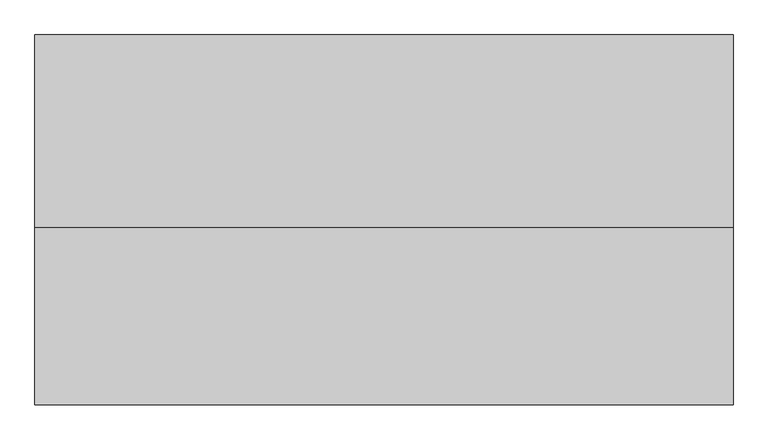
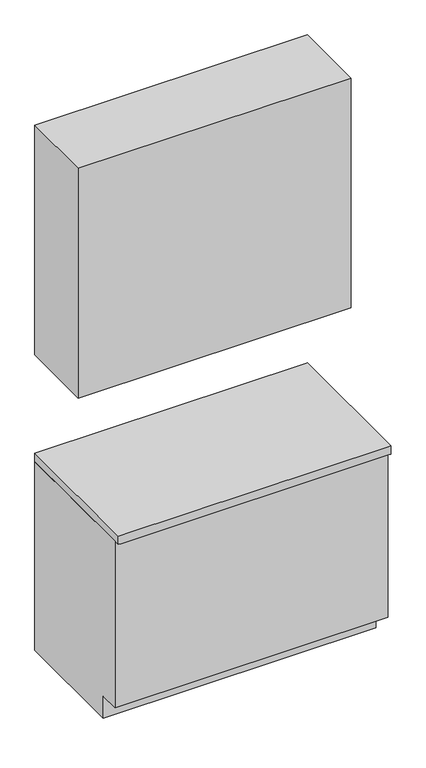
"""IFC4 building model written with IfcOpenShell, lengths in millimetres: furniture geometry, Casework Schematic - Base and Upper : Casework Schematic."""

import ifcopenshell
import ifcopenshell.guid

model = None  # the IFC model being written
_history = None  # IfcOwnerHistory: only IFC2X3 demands one
_inside = {}  # id of a spatial element -> (the spatial element, [elements in it])
_under = {}  # id of a project, library or spatial element -> (it, [spatial elements below it])
_declared = {}  # id of a project -> (the project, [libraries it declares])
_typed = {}  # id of a type object -> (the type object, [elements of that type])
_made_of = {}  # id of a material, layer set ... -> (it, [elements and type objects made of it])


def new_model(schema):
    """Start an empty IFC model of exactly this schema.

    Asked for "IFC4X3", IfcOpenShell would pick the latest addendum, in which some entities
    have other attributes; the version numbers below select the first issue.
    IFC2X3 requires an IfcOwnerHistory on every rooted entity: one is made here for all.
    """
    global model, _history
    if schema == "IFC4X3":
        model = ifcopenshell.file(schema_version=(4, 3, 0, 0))
    else:
        model = ifcopenshell.file(schema=schema)
    _inside.clear()
    _under.clear()
    _declared.clear()
    _typed.clear()
    _made_of.clear()
    _history = None
    if model.schema == "IFC2X3":
        org = make("IfcOrganization", Name="unknown")
        user = make(
            "IfcPersonAndOrganization",
            ThePerson=make("IfcPerson", FamilyName="unknown"),
            TheOrganization=org,
        )
        app = make(
            "IfcApplication",
            ApplicationDeveloper=org,
            Version="unknown",
            ApplicationFullName="unknown",
            ApplicationIdentifier="unknown",
        )
        _history = make(
            "IfcOwnerHistory",
            OwningUser=user,
            OwningApplication=app,
            ChangeAction="ADDED",
            CreationDate=0,
        )
    return model


def make(cls, **values):
    """One entity of the class cls with the attributes given. An attribute that is None is left unset."""
    return model.create_entity(
        cls, **{name: value for name, value in values.items() if value is not None}
    )


def rooted(cls, **values):
    """An entity with a GlobalId (a new one), such as an element, a storey or a relation."""
    return make(cls, GlobalId=ifcopenshell.guid.new(), OwnerHistory=_history, **values)


def si_unit(unit_type, name, prefix=None):
    """IfcSIUnit, for example si_unit("LENGTHUNIT", "METRE", prefix="MILLI")."""
    return make("IfcSIUnit", UnitType=unit_type, Prefix=prefix, Name=name)


def assignment(units):
    """IfcUnitAssignment: the units of a project."""
    return None if units is None else make("IfcUnitAssignment", Units=units)


def point(xyz):
    """IfcCartesianPoint."""
    return None if xyz is None else make("IfcCartesianPoint", Coordinates=xyz)


def direction(xyz):
    """IfcDirection."""
    return None if xyz is None else make("IfcDirection", DirectionRatios=xyz)


def frame(location, z_axis=None, x_axis=None):
    """IfcAxis2Placement3D, a coordinate frame: its origin and axes. An axis left out is left unset."""
    return make(
        "IfcAxis2Placement3D",
        Location=point(location),
        Axis=direction(z_axis),
        RefDirection=direction(x_axis),
    )


def origin():
    """The frame at (0, 0, 0) with its axes left unset."""
    return frame((0.0, 0.0, 0.0))


def place(relative_to, where):
    """IfcLocalPlacement: puts the frame where relative to a parent placement (None: the world)."""
    return make(
        "IfcLocalPlacement", PlacementRelTo=relative_to, RelativePlacement=where
    )


def context(
    kind, dimensions, precision=None, world=None, true_north=None, identifier=None
):
    """IfcGeometricRepresentationContext, for example the 3D "Model" context."""
    return make(
        "IfcGeometricRepresentationContext",
        ContextIdentifier=identifier,
        ContextType=kind,
        CoordinateSpaceDimension=dimensions,
        Precision=precision,
        WorldCoordinateSystem=world,
        TrueNorth=true_north,
    )


def project(units=None, contexts=None):
    """IfcProject with its units and contexts."""
    return rooted(
        "IfcProject",
        Name="project",
        RepresentationContexts=contexts,
        UnitsInContext=assignment(units),
    )


def spatial(cls, under=None, at=None, **own):
    """A site, building, storey or space (cls), placed at a placement, below another one or the project."""
    s = rooted(cls, ObjectPlacement=at, **own)
    if under is not None:
        _under.setdefault(under.id(), (under, []))[1].append(s)
    return s


def polyline(points):
    """IfcPolyline through the points."""
    return make("IfcPolyline", Points=[point(p) for p in points])


def outline(outer, holes=None, kind="AREA"):
    """IfcArbitraryClosedProfileDef: a profile drawn as a closed curve; with holes, ...WithVoids."""
    if holes is None:
        return make("IfcArbitraryClosedProfileDef", ProfileType=kind, OuterCurve=outer)
    return make(
        "IfcArbitraryProfileDefWithVoids",
        ProfileType=kind,
        OuterCurve=outer,
        InnerCurves=holes,
    )


def extrude(swept, where, along, depth):
    """IfcExtrudedAreaSolid: the profile swept, set in the frame where, extruded along a direction by depth."""
    return make(
        "IfcExtrudedAreaSolid",
        SweptArea=swept,
        Position=where,
        ExtrudedDirection=direction(along),
        Depth=depth,
    )


def faces_of(points, faces, orient=None, outer=None):
    """IfcFace entities. A face is a list of loops; a loop is a list of indices into points, from 0.

    orient and outer hold one flag for each loop. By default every Orientation is true, the
    first loop of a face is its IfcFaceOuterBound and the others are IfcFaceBound.
    """
    made = []
    for i, loops in enumerate(faces):
        bounds = []
        for j, loop in enumerate(loops):
            is_outer = j == 0 if outer is None else outer[i][j]
            bounds.append(
                make(
                    "IfcFaceOuterBound" if is_outer else "IfcFaceBound",
                    Bound=make("IfcPolyLoop", Polygon=[points[k] for k in loop]),
                    Orientation=True if orient is None else orient[i][j],
                )
            )
        made.append(make("IfcFace", Bounds=bounds))
    return made


def faceted_brep(points, faces, orient=None, outer=None, voids=None):
    """IfcFacetedBrep: a solid bounded by flat faces; with voids (closed shells), ...WithVoids."""
    shared = [point(p) for p in points]
    hull = make("IfcClosedShell", CfsFaces=faces_of(shared, faces, orient, outer))
    if voids is None:
        return make("IfcFacetedBrep", Outer=hull)
    return make(
        "IfcFacetedBrepWithVoids",
        Outer=hull,
        Voids=[
            make(cls, CfsFaces=faces_of(shared, fs, o, b)) for cls, fs, o, b in voids
        ],
    )


def shape(context_of_items, identifier, shape_type, items):
    """IfcShapeRepresentation: the items that make up one representation, for example the "Body"."""
    return make(
        "IfcShapeRepresentation",
        ContextOfItems=context_of_items,
        RepresentationIdentifier=identifier,
        RepresentationType=shape_type,
        Items=items,
    )


def source(mapping_origin, context_of_items, identifier, shape_type, items):
    """IfcRepresentationMap: a shape defined once, which mapped items show again and again."""
    return make(
        "IfcRepresentationMap",
        MappingOrigin=mapping_origin,
        MappedRepresentation=shape(context_of_items, identifier, shape_type, items),
    )


def transform(
    local_origin,
    x_axis=None,
    y_axis=None,
    z_axis=None,
    scale=None,
    scale2=None,
    scale3=None,
    uniform=True,
):
    """IfcCartesianTransformationOperator3D, or its non-uniform kind. x_axis, y_axis, z_axis: its Axis1, 2, 3."""
    if uniform:
        return make(
            "IfcCartesianTransformationOperator3D",
            Axis1=direction(x_axis),
            Axis2=direction(y_axis),
            LocalOrigin=point(local_origin),
            Scale=scale,
            Axis3=direction(z_axis),
        )
    return make(
        "IfcCartesianTransformationOperator3DnonUniform",
        Axis1=direction(x_axis),
        Axis2=direction(y_axis),
        LocalOrigin=point(local_origin),
        Scale=scale,
        Axis3=direction(z_axis),
        Scale2=scale2,
        Scale3=scale3,
    )


def mapped(mapping_source, mapping_target):
    """IfcMappedItem: shows the shape of a source again, moved by a transform."""
    return make(
        "IfcMappedItem", MappingSource=mapping_source, MappingTarget=mapping_target
    )


def made_of(thing, what):
    """Note that an element or type object is made of a material, layer set ...; save() writes the relation."""
    if what is not None:
        _made_of.setdefault(what.id(), (what, []))[1].append(thing)
    return thing


def element(
    cls,
    number,
    at=None,
    inside=None,
    cuts=None,
    type_object=None,
    material=None,
    context=None,
    identifier="Body",
    shape_type=None,
    held_by="IfcProductDefinitionShape",
    body=None,
    shapes=None,
    **own,
):
    """One element of the class cls, such as IfcWall. Its Tag is "e" and its number.

    at: its placement. inside: the storey or other place that contains it. cuts: it is an
    opening in that element (IfcRelVoidsElement). A single representation is given by context,
    identifier, shape_type and body (its items); several are given by shapes. held_by: the class
    of the entity that holds the representations. save() writes the other relations.
    """
    e = rooted(cls, Tag="e%d" % number, ObjectPlacement=at, **own)
    if body is not None:
        shapes = [shape(context, identifier, shape_type, body)]
    if shapes is not None:
        e.Representation = make(held_by, Representations=shapes)
    if inside is not None:
        _inside.setdefault(inside.id(), (inside, []))[1].append(e)
    if cuts is not None:
        rooted(
            "IfcRelVoidsElement", RelatingBuildingElement=cuts, RelatedOpeningElement=e
        )
    if type_object is not None:
        _typed.setdefault(type_object.id(), (type_object, []))[1].append(e)
    return made_of(e, material)


def aggregate(whole, parts):
    """IfcRelAggregates: a whole, such as a stair, and the parts it consists of."""
    return rooted("IfcRelAggregates", RelatingObject=whole, RelatedObjects=parts)


def save(model, path):
    """Write the relations noted so far, then the file.

    IfcRelAggregates (storeys below a building ...), IfcRelContainedInSpatialStructure (elements
    in a storey), IfcRelDefinesByType, IfcRelAssociatesMaterial and IfcRelDeclares: one each for
    every whole, place, type object, material and project.
    """
    for whole, parts in _under.values():
        aggregate(whole, parts)
    for where, things in _inside.values():
        rooted(
            "IfcRelContainedInSpatialStructure",
            RelatedElements=things,
            RelatingStructure=where,
        )
    for kind, things in _typed.values():
        rooted("IfcRelDefinesByType", RelatedObjects=things, RelatingType=kind)
    for what, things in _made_of.values():
        rooted("IfcRelAssociatesMaterial", RelatedObjects=things, RelatingMaterial=what)
    for by, libraries in _declared.values():
        rooted("IfcRelDeclares", RelatingContext=by, RelatedDefinitions=libraries)
    model.write(path)


def furniture_692216f6(model_context):
    return source(origin(), model_context, "Body", "SolidModel", [
        extrude(outline(polyline([(0.0, 0.0), (1200.0, 0.0), (1200.0, -330.2), (0.0, -330.2), (0.0, 0.0)])), frame((0.0, 0.0, 1371.6), z_axis=(0.0, 0.0, 1.0), x_axis=(1.0, 0.0, 0.0)), (0.0, 0.0, 1.0), 1066.8),
        extrude(outline(polyline([(0.0, 876.3), (0.0, 0.0), (-520.7, 0.0), (-520.7, 101.6), (-609.6, 101.6), (-609.6, 876.3), (0.0, 876.3)])), frame((0.0, 0.0, 0.0), z_axis=(1.0, 0.0, 0.0), x_axis=(0.0, 1.0, 0.0)), (0.0, 0.0, 1.0), 1200.0),
        faceted_brep([(1200.0, 0.0, 876.3), (1200.0, -12.7, 876.3), (1200.0, -635.0, 876.3), (1187.3, -635.0, 876.3), (1161.9, -635.0, 876.3), (38.1, -635.0, 876.3), (12.7, -635.0, 876.3), (0.0, -635.0, 876.3), (0.0, -12.7, 876.3), (0.0, 0.0, 876.3), (12.7, 0.0, 876.3), (38.1, 0.0, 876.3), (1161.9, 0.0, 876.3), (1187.3, 0.0, 876.3), (1200.0, -635.0, 914.4), (1200.0, -12.7, 914.4), (1200.0, 0.0, 914.4), (1187.3, 0.0, 914.4), (12.7, 0.0, 914.4), (0.0, 0.0, 914.4), (0.0, -12.7, 914.4), (0.0, -635.0, 914.4), (12.7, -635.0, 914.4), (1187.3, -635.0, 914.4), (1200.0, -635.0, 889.0), (0.0, -635.0, 889.0), (0.0, 0.0, 889.0), (1200.0, 0.0, 889.0)], [[[0, 1, 2, 3, 4, 5, 6, 7, 8, 9, 10, 11, 12, 13]], [[14, 15, 16, 17, 18, 19, 20, 21, 22, 23]], [[2, 24, 14, 23, 22, 21, 25, 7, 6, 5, 4, 3]], [[8, 7, 25, 21, 20, 19, 26, 9]], [[13, 12, 11, 10, 9, 26, 19, 18, 17, 16, 27, 0]], [[27, 16, 15, 14, 24, 2, 1, 0]]]),
    ])


if __name__ == "__main__":
    model = new_model("IFC4")
    model_context = context("Model", 3, world=origin())
    ifc_project = project(units=[si_unit("LENGTHUNIT", "METRE", prefix="MILLI")], contexts=[model_context])
    site = spatial("IfcSite", under=ifc_project)
    building = spatial("IfcBuilding", under=site)
    placement = place(None, origin())
    furniture_shape = furniture_692216f6(model_context)
    element("IfcFurniture", 1, ObjectType="Casework Schematic - Base and Upper : Casework Schematic", at=placement, inside=building, context=model_context, shape_type="MappedRepresentation", body=[
        mapped(furniture_shape, transform((0.0, 0.0, 0.0), x_axis=(1.0, 0.0, 0.0), y_axis=(0.0, 1.0, 0.0), z_axis=(0.0, 0.0, 1.0))),
    ])
    save(model, "model.ifc")
